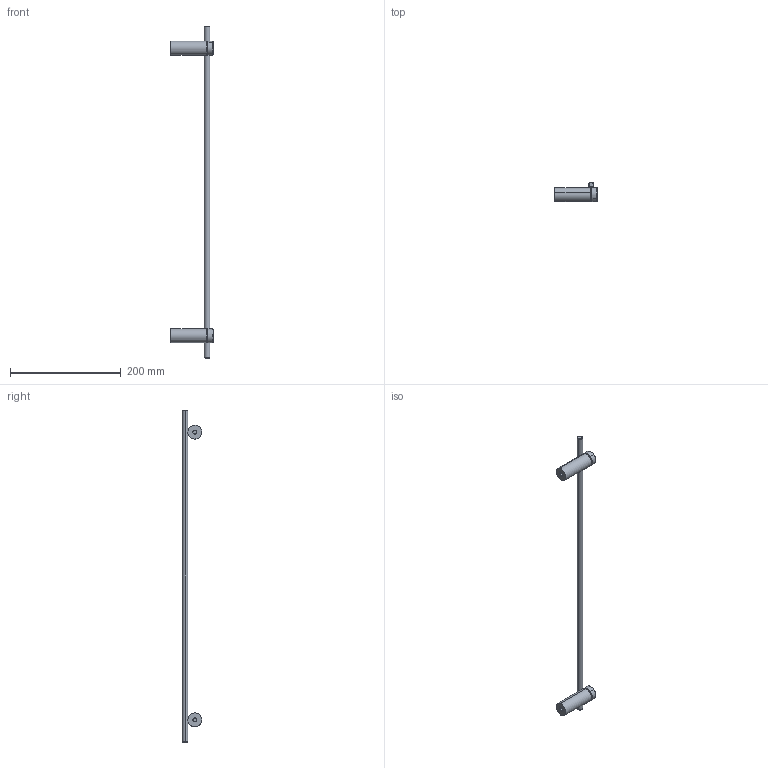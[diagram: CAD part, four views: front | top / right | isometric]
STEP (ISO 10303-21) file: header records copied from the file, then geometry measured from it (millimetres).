
FILE_DESCRIPTION (( 'STEP AP214' ), '1' );
FILE_NAME ('Wieszak na rêczniki Tomzo.STEP', '2024-07-03T20:07:11', ( '' ), ( '' ), 'SwSTEP 2.0', 'SolidWorks 2021', '' );
FILE_SCHEMA (( 'AUTOMOTIVE_DESIGN' ));
Length unit declared in the file: millimetre
Products named in the file (5): Œruba M10; 02-014-0400-W-00-02; Wieszak na rêczniki Tomzo; Dystans monta¿owy; 02-014-0600-W-00-01
Assembly tree (7 placements, depth 2):
  Wieszak na rêczniki Tomzo
    02-014-0600-W-00-01
    02-014-0400-W-00-02  x2
    Dystans monta¿owy  x2
    Œruba M10  x2
Bounding box: 77 x 35.16 x 600 mm (x, y, z)
Volume: 113259.6 mm3; surface area: 42672.1 mm2
Topology: 7 solids, 7 shells, 132 faces, 322 edges, 208 vertices
Faces by surface type: cylinder 78, plane 32, bspline 14, torus 8
Entity records: 7094 total; most frequent: CARTESIAN_POINT 5394, ORIENTED_EDGE 336, DIRECTION 299, EDGE_CURVE 168, AXIS2_PLACEMENT_3D 121, VERTEX_POINT 108, EDGE_LOOP 76, ADVANCED_FACE 70
